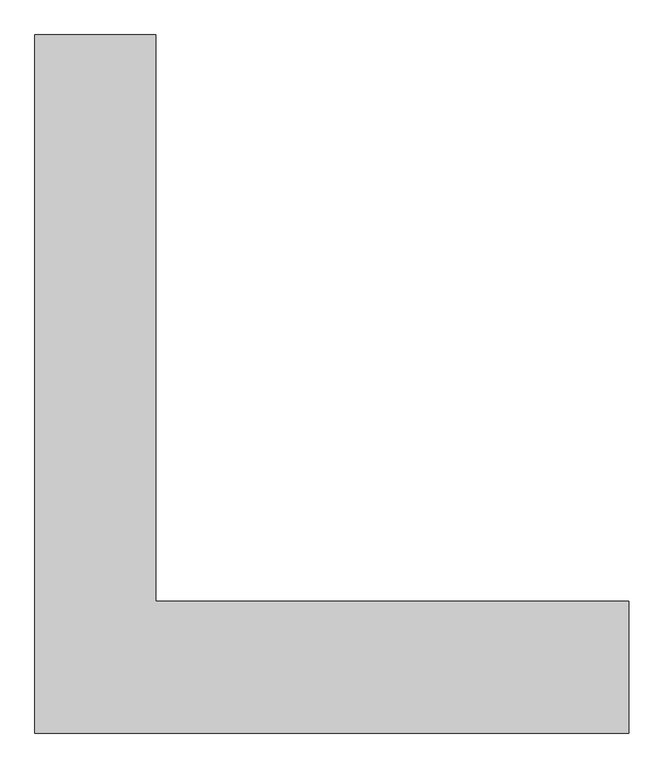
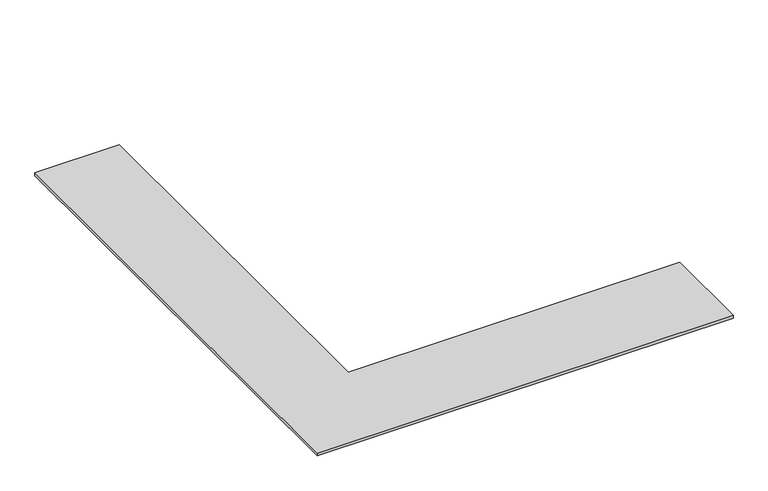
"""IFC4 building model written with IfcOpenShell, lengths in millimetres: furniture geometry, Prateleira B1 : Prateleira B1."""

from ifc_helpers import new_model, si_unit, frame, origin, place, context, project, spatial, polyline, outline, extrude, source, transform, mapped, element, save


def furniture_05a27e2d(model_context):
    return source(origin(), model_context, "Body", "SweptSolid", [
        extrude(outline(polyline([(-2692.3834094, -4787.0637549), (-2692.3834094, -7367.0637549), (-537.3834094, -7367.0637549), (-537.3834094, -7967.0637549), (-3242.3834094, -7967.0637549), (-3242.3834094, -4787.0637549), (-2692.3834094, -4787.0637549)])), frame((0.0, 0.0, 500.0), z_axis=(0.0, 0.0, 1.0), x_axis=(1.0, 0.0, 0.0)), (0.0, 0.0, 1.0), 20.0),
    ])


if __name__ == "__main__":
    model = new_model("IFC4")
    model_context = context("Model", 3, world=origin())
    ifc_project = project(units=[si_unit("LENGTHUNIT", "METRE", prefix="MILLI")], contexts=[model_context])
    site = spatial("IfcSite", under=ifc_project)
    building = spatial("IfcBuilding", under=site)
    placement = place(None, origin())
    furniture_shape = furniture_05a27e2d(model_context)
    element("IfcFurniture", 1, ObjectType="Prateleira B1 : Prateleira B1", at=placement, inside=building, context=model_context, shape_type="MappedRepresentation", body=[
        mapped(furniture_shape, transform((0.0, 0.0, 0.0), x_axis=(1.0, 0.0, 0.0), y_axis=(0.0, 1.0, 0.0), z_axis=(0.0, 0.0, 1.0))),
    ])
    save(model, "model.ifc")
